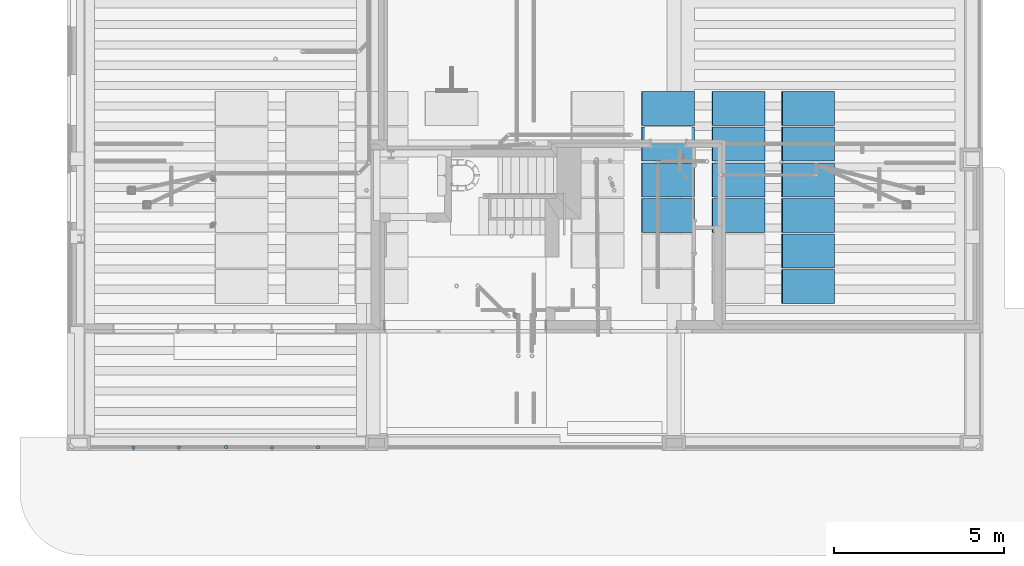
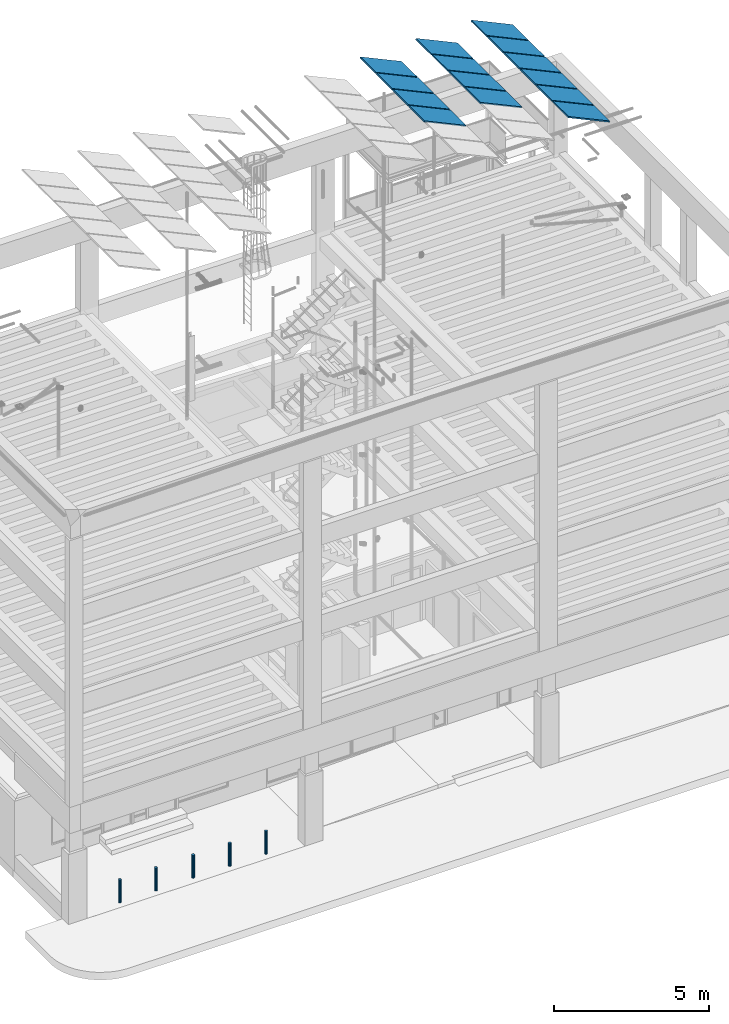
# One storey, part 13 of 108: 19 members.
"""IFC2X3 building model written with IfcOpenShell, lengths in metres."""

from ifc_helpers import new_model, entity, si_unit, converted_unit, derived_unit, money_unit, direction, frame, origin_with_axes, place, context, subcontext, project, spatial, faceted_brep, material, type_object, element, save


model = new_model("IFC2X3")

# Units and contexts
model_context = context("Model", 3, precision=1e-05, world=origin_with_axes(), true_north=direction((0.0, 1.0)))
body_context = subcontext(model_context, "Body", "Model", "MODEL_VIEW", scale=1.0)
ifc_project = project(units=[si_unit("LENGTHUNIT", "METRE"), si_unit("AREAUNIT", "SQUARE_METRE"), si_unit("VOLUMEUNIT", "CUBIC_METRE"), si_unit("ABSORBEDDOSEUNIT", "GRAY"), si_unit("AMOUNTOFSUBSTANCEUNIT", "MOLE"), si_unit("DOSEEQUIVALENTUNIT", "SIEVERT"), si_unit("ELECTRICCAPACITANCEUNIT", "FARAD"), si_unit("ELECTRICCHARGEUNIT", "COULOMB"), si_unit("ELECTRICCONDUCTANCEUNIT", "SIEMENS"), si_unit("ELECTRICCURRENTUNIT", "AMPERE"), si_unit("ELECTRICRESISTANCEUNIT", "OHM"), si_unit("ELECTRICVOLTAGEUNIT", "VOLT"), si_unit("ENERGYUNIT", "JOULE"), si_unit("FORCEUNIT", "NEWTON"), si_unit("FREQUENCYUNIT", "HERTZ"), si_unit("ILLUMINANCEUNIT", "LUX"), si_unit("INDUCTANCEUNIT", "HENRY"), si_unit("LUMINOUSFLUXUNIT", "LUMEN"), si_unit("LUMINOUSINTENSITYUNIT", "CANDELA"), si_unit("MAGNETICFLUXDENSITYUNIT", "TESLA"), si_unit("MAGNETICFLUXUNIT", "WEBER"), si_unit("MASSUNIT", "GRAM"), converted_unit("PLANEANGLEUNIT", "degree", entity("IfcReal", 0.0174532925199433), si_unit("PLANEANGLEUNIT", "RADIAN"), dimensions=[0, 0, 0, 0, 0, 0, 0]), si_unit("POWERUNIT", "WATT"), si_unit("PRESSUREUNIT", "PASCAL"), si_unit("RADIOACTIVITYUNIT", "BECQUEREL"), si_unit("SOLIDANGLEUNIT", "STERADIAN"), si_unit("THERMODYNAMICTEMPERATUREUNIT", "KELVIN"), si_unit("TIMEUNIT", "SECOND"), derived_unit("ACCELERATIONUNIT", [(si_unit("LENGTHUNIT", "METRE"), 1), (si_unit("TIMEUNIT", "SECOND"), -2)]), derived_unit("ANGULARVELOCITYUNIT", [(converted_unit("PLANEANGLEUNIT", "degree", entity("IfcReal", 0.0174532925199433), si_unit("PLANEANGLEUNIT", "RADIAN"), dimensions=[0, 0, 0, 0, 0, 0, 0]), 1), (si_unit("TIMEUNIT", "SECOND"), -1)]), derived_unit("CURVATUREUNIT", [(converted_unit("PLANEANGLEUNIT", "degree", entity("IfcReal", 0.0174532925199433), si_unit("PLANEANGLEUNIT", "RADIAN"), dimensions=[0, 0, 0, 0, 0, 0, 0]), 1), (si_unit("LENGTHUNIT", "METRE"), -1)]), derived_unit("DYNAMICVISCOSITYUNIT", [(si_unit("PRESSUREUNIT", "PASCAL"), 1), (si_unit("TIMEUNIT", "SECOND"), 1)]), derived_unit("HEATFLUXDENSITYUNIT", [(si_unit("POWERUNIT", "WATT"), 1), (si_unit("LENGTHUNIT", "METRE"), -2)]), derived_unit("HEATINGVALUEUNIT", [(si_unit("ENERGYUNIT", "JOULE"), 1), (si_unit("MASSUNIT", "GRAM"), -1)]), derived_unit("INTEGERCOUNTRATEUNIT", [(si_unit("TIMEUNIT", "SECOND"), -1)]), derived_unit("IONCONCENTRATIONUNIT", [(si_unit("MASSUNIT", "GRAM"), 1), (si_unit("VOLUMEUNIT", "CUBIC_METRE"), -1)]), derived_unit("ISOTHERMALMOISTURECAPACITYUNIT", [(si_unit("VOLUMEUNIT", "CUBIC_METRE"), 1), (si_unit("MASSUNIT", "GRAM"), -1)]), derived_unit("KINEMATICVISCOSITYUNIT", [(si_unit("AREAUNIT", "SQUARE_METRE"), 1), (si_unit("TIMEUNIT", "SECOND"), -1)]), derived_unit("LINEARFORCEUNIT", [(si_unit("FORCEUNIT", "NEWTON"), 1), (si_unit("LENGTHUNIT", "METRE"), -1)]), derived_unit("LINEARMOMENTUNIT", [(si_unit("FORCEUNIT", "NEWTON"), 1), (si_unit("LENGTHUNIT", "METRE"), -1)]), derived_unit("LINEARSTIFFNESSUNIT", [(si_unit("FORCEUNIT", "NEWTON"), 1), (si_unit("LENGTHUNIT", "METRE"), -1)]), derived_unit("LINEARVELOCITYUNIT", [(si_unit("LENGTHUNIT", "METRE"), 1), (si_unit("TIMEUNIT", "SECOND"), -1)]), derived_unit("LUMINOUSINTENSITYDISTRIBUTIONUNIT", [(si_unit("LUMINOUSINTENSITYUNIT", "CANDELA"), 1), (si_unit("LUMINOUSFLUXUNIT", "LUMEN"), -1)]), derived_unit("MASSDENSITYUNIT", [(si_unit("MASSUNIT", "GRAM"), 1), (si_unit("VOLUMEUNIT", "CUBIC_METRE"), -1)]), derived_unit("MASSFLOWRATEUNIT", [(si_unit("MASSUNIT", "GRAM"), 1), (si_unit("TIMEUNIT", "SECOND"), -1)]), derived_unit("MASSPERLENGTHUNIT", [(si_unit("MASSUNIT", "GRAM"), 1), (si_unit("LENGTHUNIT", "METRE"), -1)]), derived_unit("MODULUSOFELASTICITYUNIT", [(si_unit("FORCEUNIT", "NEWTON"), 1), (si_unit("AREAUNIT", "SQUARE_METRE"), -1)]), derived_unit("MODULUSOFLINEARSUBGRADEREACTIONUNIT", [(si_unit("FORCEUNIT", "NEWTON"), 1), (si_unit("LENGTHUNIT", "METRE"), -2)]), derived_unit("MODULUSOFROTATIONALSUBGRADEREACTIONUNIT", [(si_unit("FORCEUNIT", "NEWTON"), 1), (si_unit("LENGTHUNIT", "METRE"), 1)]), derived_unit("MODULUSOFSUBGRADEREACTIONUNIT", [(si_unit("FORCEUNIT", "NEWTON"), 1), (si_unit("VOLUMEUNIT", "CUBIC_METRE"), -1)]), derived_unit("MOISTUREDIFFUSIVITYUNIT", [(si_unit("VOLUMEUNIT", "CUBIC_METRE"), 1), (si_unit("TIMEUNIT", "SECOND"), -1)]), derived_unit("MOLECULARWEIGHTUNIT", [(si_unit("MASSUNIT", "GRAM"), 1), (si_unit("AMOUNTOFSUBSTANCEUNIT", "MOLE"), -1)]), derived_unit("PLANARFORCEUNIT", [(si_unit("FORCEUNIT", "NEWTON"), 1), (si_unit("LENGTHUNIT", "METRE"), -2)]), derived_unit("ROTATIONALFREQUENCYUNIT", [(si_unit("TIMEUNIT", "SECOND"), -1)]), derived_unit("ROTATIONALMASSUNIT", [(si_unit("MASSUNIT", "GRAM"), 1), (si_unit("LENGTHUNIT", "METRE"), 2)]), derived_unit("ROTATIONALSTIFFNESSUNIT", [(si_unit("FORCEUNIT", "NEWTON"), 1), (si_unit("LENGTHUNIT", "METRE"), 1), (converted_unit("PLANEANGLEUNIT", "degree", entity("IfcReal", 0.0174532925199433), si_unit("PLANEANGLEUNIT", "RADIAN"), dimensions=[0, 0, 0, 0, 0, 0, 0]), -1)]), derived_unit("SECTIONAREAINTEGRALUNIT", [(si_unit("LENGTHUNIT", "METRE"), 5)]), derived_unit("SECTIONMODULUSUNIT", [(si_unit("LENGTHUNIT", "METRE"), 3)]), derived_unit("SHEARMODULUSUNIT", [(si_unit("FORCEUNIT", "NEWTON"), 1), (si_unit("AREAUNIT", "SQUARE_METRE"), -1)]), derived_unit("SOUNDPOWERUNIT", [(si_unit("ENERGYUNIT", "JOULE"), 1), (si_unit("TIMEUNIT", "SECOND"), -1)]), derived_unit("SPECIFICHEATCAPACITYUNIT", [(si_unit("FORCEUNIT", "NEWTON"), 1), (si_unit("MASSUNIT", "GRAM"), -1), (si_unit("THERMODYNAMICTEMPERATUREUNIT", "KELVIN"), -1)]), derived_unit("TEMPERATUREGRADIENTUNIT", [(si_unit("THERMODYNAMICTEMPERATUREUNIT", "KELVIN"), 1), (si_unit("LENGTHUNIT", "METRE"), -1)]), derived_unit("THERMALADMITTANCEUNIT", [(si_unit("POWERUNIT", "WATT"), 1), (si_unit("AREAUNIT", "SQUARE_METRE"), -1), (si_unit("THERMODYNAMICTEMPERATUREUNIT", "KELVIN"), -1)]), derived_unit("THERMALCONDUCTANCEUNIT", [(si_unit("POWERUNIT", "WATT"), 1), (si_unit("LENGTHUNIT", "METRE"), -1), (si_unit("THERMODYNAMICTEMPERATUREUNIT", "KELVIN"), -1)]), derived_unit("THERMALEXPANSIONCOEFFICIENTUNIT", [(si_unit("THERMODYNAMICTEMPERATUREUNIT", "KELVIN"), -1)]), derived_unit("THERMALRESISTANCEUNIT", [(si_unit("AREAUNIT", "SQUARE_METRE"), 1), (si_unit("POWERUNIT", "WATT"), -1)]), derived_unit("THERMALTRANSMITTANCEUNIT", [(si_unit("POWERUNIT", "WATT"), 1), (si_unit("AREAUNIT", "SQUARE_METRE"), -1), (si_unit("THERMODYNAMICTEMPERATUREUNIT", "KELVIN"), -1)]), derived_unit("TORQUEUNIT", [(si_unit("FORCEUNIT", "NEWTON"), 1), (si_unit("LENGTHUNIT", "METRE"), 1)]), derived_unit("VAPORPERMEABILITYUNIT", [(si_unit("MASSUNIT", "GRAM"), 1), (si_unit("TIMEUNIT", "SECOND"), -1)]), derived_unit("VOLUMETRICFLOWRATEUNIT", [(si_unit("VOLUMEUNIT", "CUBIC_METRE"), 1), (si_unit("TIMEUNIT", "SECOND"), -1)]), derived_unit("WARPINGCONSTANTUNIT", [(si_unit("LENGTHUNIT", "METRE"), 6)]), derived_unit("WARPINGMOMENTUNIT", [(si_unit("FORCEUNIT", "NEWTON"), 1), (si_unit("LENGTHUNIT", "METRE"), 2)]), money_unit("GBP")], contexts=[model_context])

# Site, building, storey
site_placement = place(None, origin_with_axes())
site = spatial("IfcSite", under=ifc_project, at=site_placement, Name="Site", CompositionType="ELEMENT")
building_placement = place(site_placement, origin_with_axes())
building = spatial("IfcBuilding", under=site, at=building_placement, Name="Building01", CompositionType="ELEMENT")
storey_placement = place(building_placement, origin_with_axes())
storey = spatial("IfcBuildingStorey", under=building, at=storey_placement, Name="GF", CompositionType="ELEMENT", Elevation=0.0)

# Members
ifc_material_1 = material(Name="A_BSUK_Steel_Miscellaneous")
member_type_1 = type_object("IfcMemberType", Name="A-FrameElements:A_BSUK_Steel_Miscellaneous", PredefinedType="NOTDEFINED")
placement = place(storey_placement, origin_with_axes())
element("IfcMember", 1, at=placement, inside=storey, type_object=member_type_1, material=ifc_material_1, Name="A-FrameElements--A_BSUK_Steel_Miscellaneous", ObjectType="A-FrameElements:A_BSUK_Steel_Miscellaneous", context=body_context, shape_type="Brep", body=[
    faceted_brep([(2.009894, 0.062308, 0.0), (1.998692, 0.045543, 0.0), (1.981927, 0.03434, 0.0), (1.962151, 0.030407, 0.0), (1.942374, 0.03434, 0.0), (1.925609, 0.045543, 0.0), (1.914407, 0.062308, 0.0), (1.910473, 0.082084, 0.0), (1.914407, 0.10186, 0.0), (1.925609, 0.118626, 0.0), (1.942374, 0.129828, 0.0), (1.962151, 0.133762, 0.0), (1.981927, 0.129828, 0.0), (1.998692, 0.118626, 0.0), (2.009894, 0.10186, 0.0), (2.013828, 0.082084, 0.0), (2.013773, 0.079695, 0.0), (1.910473, 0.082084, 0.9), (1.914407, 0.10186, 0.9), (1.925609, 0.118626, 0.9), (1.942374, 0.129828, 0.9), (1.962151, 0.133762, 0.9), (1.981927, 0.129828, 0.9), (1.998692, 0.118626, 0.9), (2.009894, 0.10186, 0.9), (2.013828, 0.082084, 0.9), (2.013773, 0.079695, 0.9), (2.009894, 0.062308, 0.9), (1.998692, 0.045543, 0.9), (1.981927, 0.03434, 0.9), (1.962151, 0.030407, 0.9), (1.942374, 0.03434, 0.9), (1.925609, 0.045543, 0.9), (1.914407, 0.062308, 0.9)], [[[0, 1, 2, 3, 4, 5, 6, 7, 8, 9, 10, 11, 12, 13, 14, 15, 16]], [[7, 17, 18, 8]], [[8, 18, 19, 9]], [[9, 19, 20, 10]], [[10, 20, 21, 11]], [[11, 21, 22, 12]], [[12, 22, 23, 13]], [[13, 23, 24, 14]], [[14, 24, 25, 15]], [[26, 27, 0, 16]], [[0, 27, 28, 1]], [[1, 28, 29, 2]], [[2, 29, 30, 3]], [[3, 30, 31, 4]], [[4, 31, 32, 5]], [[5, 32, 33, 6]], [[6, 33, 17, 7]], [[16, 15, 25, 26]], [[25, 24, 23, 22, 21, 20, 19, 18, 17, 33, 32, 31, 30, 29, 28, 27, 26]]]),
])
element("IfcMember", 2, at=placement, inside=storey, type_object=member_type_1, material=ifc_material_1, Name="A-FrameElements--A_BSUK_Steel_Miscellaneous", ObjectType="A-FrameElements:A_BSUK_Steel_Miscellaneous", context=body_context, shape_type="Brep", body=[
    faceted_brep([(3.346752, 0.062308, 0.0), (3.33555, 0.045543, 0.0), (3.318784, 0.03434, 0.0), (3.299008, 0.030407, 0.0), (3.279232, 0.03434, 0.0), (3.262466, 0.045543, 0.0), (3.251264, 0.062308, 0.0), (3.24733, 0.082084, 0.0), (3.251264, 0.10186, 0.0), (3.262466, 0.118626, 0.0), (3.279232, 0.129828, 0.0), (3.299008, 0.133762, 0.0), (3.318784, 0.129828, 0.0), (3.33555, 0.118626, 0.0), (3.346752, 0.10186, 0.0), (3.350686, 0.082084, 0.0), (3.35063, 0.079695, 0.0), (3.24733, 0.082084, 0.9), (3.251264, 0.10186, 0.9), (3.262466, 0.118626, 0.9), (3.279232, 0.129828, 0.9), (3.299008, 0.133762, 0.9), (3.318784, 0.129828, 0.9), (3.33555, 0.118626, 0.9), (3.346752, 0.10186, 0.9), (3.350686, 0.082084, 0.9), (3.35063, 0.079695, 0.9), (3.346752, 0.062308, 0.9), (3.33555, 0.045543, 0.9), (3.318784, 0.03434, 0.9), (3.299008, 0.030407, 0.9), (3.279232, 0.03434, 0.9), (3.262466, 0.045543, 0.9), (3.251264, 0.062308, 0.9)], [[[0, 1, 2, 3, 4, 5, 6, 7, 8, 9, 10, 11, 12, 13, 14, 15, 16]], [[7, 17, 18, 8]], [[8, 18, 19, 9]], [[9, 19, 20, 10]], [[10, 20, 21, 11]], [[11, 21, 22, 12]], [[12, 22, 23, 13]], [[13, 23, 24, 14]], [[14, 24, 25, 15]], [[26, 27, 0, 16]], [[0, 27, 28, 1]], [[1, 28, 29, 2]], [[2, 29, 30, 3]], [[3, 30, 31, 4]], [[4, 31, 32, 5]], [[5, 32, 33, 6]], [[6, 33, 17, 7]], [[16, 15, 25, 26]], [[25, 24, 23, 22, 21, 20, 19, 18, 17, 33, 32, 31, 30, 29, 28, 27, 26]]]),
])
element("IfcMember", 3, at=placement, inside=storey, type_object=member_type_1, material=ifc_material_1, Name="A-FrameElements--A_BSUK_Steel_Miscellaneous", ObjectType="A-FrameElements:A_BSUK_Steel_Miscellaneous", context=body_context, shape_type="Brep", body=[
    faceted_brep([(4.742823, 0.08334, 0.0), (4.731621, 0.066575, 0.0), (4.714856, 0.055373, 0.0), (4.695079, 0.051439, 0.0), (4.675303, 0.055373, 0.0), (4.658538, 0.066575, 0.0), (4.647335, 0.08334, 0.0), (4.643402, 0.103117, 0.0), (4.647335, 0.122893, 0.0), (4.658538, 0.139658, 0.0), (4.675303, 0.15086, 0.0), (4.695079, 0.154794, 0.0), (4.714856, 0.15086, 0.0), (4.731621, 0.139658, 0.0), (4.742823, 0.122893, 0.0), (4.746757, 0.103117, 0.0), (4.746702, 0.100727, 0.0), (4.643402, 0.103117, 0.9), (4.647335, 0.122893, 0.9), (4.658538, 0.139658, 0.9), (4.675303, 0.15086, 0.9), (4.695079, 0.154794, 0.9), (4.714856, 0.15086, 0.9), (4.731621, 0.139658, 0.9), (4.742823, 0.122893, 0.9), (4.746757, 0.103117, 0.9), (4.746702, 0.100727, 0.9), (4.742823, 0.08334, 0.9), (4.731621, 0.066575, 0.9), (4.714856, 0.055373, 0.9), (4.695079, 0.051439, 0.9), (4.675303, 0.055373, 0.9), (4.658538, 0.066575, 0.9), (4.647335, 0.08334, 0.9)], [[[0, 1, 2, 3, 4, 5, 6, 7, 8, 9, 10, 11, 12, 13, 14, 15, 16]], [[7, 17, 18, 8]], [[8, 18, 19, 9]], [[9, 19, 20, 10]], [[10, 20, 21, 11]], [[11, 21, 22, 12]], [[12, 22, 23, 13]], [[13, 23, 24, 14]], [[14, 24, 25, 15]], [[26, 27, 0, 16]], [[0, 27, 28, 1]], [[1, 28, 29, 2]], [[2, 29, 30, 3]], [[3, 30, 31, 4]], [[4, 31, 32, 5]], [[5, 32, 33, 6]], [[6, 33, 17, 7]], [[16, 15, 25, 26]], [[25, 24, 23, 22, 21, 20, 19, 18, 17, 33, 32, 31, 30, 29, 28, 27, 26]]]),
])
element("IfcMember", 4, at=placement, inside=storey, type_object=member_type_1, material=ifc_material_1, Name="A-FrameElements--A_BSUK_Steel_Miscellaneous", ObjectType="A-FrameElements:A_BSUK_Steel_Miscellaneous", context=body_context, shape_type="Brep", body=[
    faceted_brep([(6.091739, 0.062814, 0.0), (6.080537, 0.046049, 0.0), (6.063771, 0.034847, 0.0), (6.043995, 0.030913, 0.0), (6.024219, 0.034847, 0.0), (6.007453, 0.046049, 0.0), (5.996251, 0.062814, 0.0), (5.992317, 0.082591, 0.0), (5.996251, 0.102367, 0.0), (6.007453, 0.119132, 0.0), (6.024219, 0.130334, 0.0), (6.043995, 0.134268, 0.0), (6.063771, 0.130334, 0.0), (6.080537, 0.119132, 0.0), (6.091739, 0.102367, 0.0), (6.095673, 0.082591, 0.0), (6.095617, 0.080201, 0.0), (5.992317, 0.082591, 0.9), (5.996251, 0.102367, 0.9), (6.007453, 0.119132, 0.9), (6.024219, 0.130334, 0.9), (6.043995, 0.134268, 0.9), (6.063771, 0.130334, 0.9), (6.080537, 0.119132, 0.9), (6.091739, 0.102367, 0.9), (6.095673, 0.082591, 0.9), (6.095617, 0.080201, 0.9), (6.091739, 0.062814, 0.9), (6.080537, 0.046049, 0.9), (6.063771, 0.034847, 0.9), (6.043995, 0.030913, 0.9), (6.024219, 0.034847, 0.9), (6.007453, 0.046049, 0.9), (5.996251, 0.062814, 0.9)], [[[0, 1, 2, 3, 4, 5, 6, 7, 8, 9, 10, 11, 12, 13, 14, 15, 16]], [[7, 17, 18, 8]], [[8, 18, 19, 9]], [[9, 19, 20, 10]], [[10, 20, 21, 11]], [[11, 21, 22, 12]], [[12, 22, 23, 13]], [[13, 23, 24, 14]], [[14, 24, 25, 15]], [[26, 27, 0, 16]], [[0, 27, 28, 1]], [[1, 28, 29, 2]], [[2, 29, 30, 3]], [[3, 30, 31, 4]], [[4, 31, 32, 5]], [[5, 32, 33, 6]], [[6, 33, 17, 7]], [[16, 15, 25, 26]], [[25, 24, 23, 22, 21, 20, 19, 18, 17, 33, 32, 31, 30, 29, 28, 27, 26]]]),
])
element("IfcMember", 5, at=placement, inside=storey, type_object=member_type_1, material=ifc_material_1, Name="A-FrameElements--A_BSUK_Steel_Miscellaneous", ObjectType="A-FrameElements:A_BSUK_Steel_Miscellaneous", context=body_context, shape_type="Brep", body=[
    faceted_brep([(7.444789, 0.072802, 0.0), (7.433586, 0.056036, 0.0), (7.416821, 0.044834, 0.0), (7.397045, 0.0409, 0.0), (7.377269, 0.044834, 0.0), (7.360503, 0.056036, 0.0), (7.349301, 0.072802, 0.0), (7.345367, 0.092578, 0.0), (7.349301, 0.112354, 0.0), (7.360503, 0.129119, 0.0), (7.377269, 0.140322, 0.0), (7.397045, 0.144256, 0.0), (7.416821, 0.140322, 0.0), (7.433586, 0.129119, 0.0), (7.444789, 0.112354, 0.0), (7.448723, 0.092578, 0.0), (7.448667, 0.090189, 0.0), (7.345367, 0.092578, 0.9), (7.349301, 0.112354, 0.9), (7.360503, 0.129119, 0.9), (7.377269, 0.140322, 0.9), (7.397045, 0.144256, 0.9), (7.416821, 0.140322, 0.9), (7.433586, 0.129119, 0.9), (7.444789, 0.112354, 0.9), (7.448723, 0.092578, 0.9), (7.448667, 0.090189, 0.9), (7.444789, 0.072802, 0.9), (7.433586, 0.056036, 0.9), (7.416821, 0.044834, 0.9), (7.397045, 0.0409, 0.9), (7.377269, 0.044834, 0.9), (7.360503, 0.056036, 0.9), (7.349301, 0.072802, 0.9)], [[[0, 1, 2, 3, 4, 5, 6, 7, 8, 9, 10, 11, 12, 13, 14, 15, 16]], [[7, 17, 18, 8]], [[8, 18, 19, 9]], [[9, 19, 20, 10]], [[10, 20, 21, 11]], [[11, 21, 22, 12]], [[12, 22, 23, 13]], [[13, 23, 24, 14]], [[14, 24, 25, 15]], [[26, 27, 0, 16]], [[0, 27, 28, 1]], [[1, 28, 29, 2]], [[2, 29, 30, 3]], [[3, 30, 31, 4]], [[4, 31, 32, 5]], [[5, 32, 33, 6]], [[6, 33, 17, 7]], [[16, 15, 25, 26]], [[25, 24, 23, 22, 21, 20, 19, 18, 17, 33, 32, 31, 30, 29, 28, 27, 26]]]),
])
ifc_material_2 = material(Name="A_BSUK_BasePlates")
member_type_2 = type_object("IfcMemberType", Name="A-Baseplate", PredefinedType="PLATE")
for number, where, z_axis, x_axis, name in (
    (6, (21.075265, 9.5735, 21.590851), (-0.42261826, 0.0, -0.90630779), (-0.90630779, 0.0, 0.42261826), "Solar panel"),
    (7, (19.022082, 9.5735, 21.590851), (-0.42261826, 0.0, -0.90630779), (-0.90630779, 0.0, 0.42261826), "Solar panel"),
    (8, (16.947768, 9.5735, 21.590851), (-0.42261826, 0.0, -0.90630779), (-0.90630779, 0.0, 0.42261826), "Solar panel"),
    (9, (21.075265, 8.524048, 21.590851), (-0.42261826, 0.0, -0.90630779), (-0.90630779, 0.0, 0.42261826), "Solar panel"),
    (10, (19.022082, 8.524048, 21.590851), (-0.42261826, 0.0, -0.90630779), (-0.90630779, 0.0, 0.42261826), "Solar panel"),
    (11, (16.947768, 8.524048, 21.590851), (-0.42261826, 0.0, -0.90630779), (-0.90630779, 0.0, 0.42261826), "Solar panel"),
    (12, (21.075265, 7.474596, 21.590851), (-0.42261826, 0.0, -0.90630779), (-0.90630779, 0.0, 0.42261826), "Solar panel"),
    (13, (19.022082, 7.474596, 21.590851), (-0.42261826, 0.0, -0.90630779), (-0.90630779, 0.0, 0.42261826), "Solar panel"),
    (14, (16.947768, 7.474596, 21.590851), (-0.42261826, 0.0, -0.90630779), (-0.90630779, 0.0, 0.42261826), "Solar panel"),
    (15, (21.075265, 6.425145, 21.590851), (-0.42261826, 0.0, -0.90630779), (-0.90630779, 0.0, 0.42261826), "Solar panel"),
    (16, (19.022082, 6.425145, 21.590851), (-0.42261826, 0.0, -0.90630779), (-0.90630779, 0.0, 0.42261826), "Solar panel"),
    (17, (16.947768, 6.425145, 21.590851), (-0.42261826, 0.0, -0.90630779), (-0.90630779, 0.0, 0.42261826), "Solar panel"),
    (18, (21.075265, 5.375693, 21.590851), (-0.42261826, 0.0, -0.90630779), (-0.90630779, 0.0, 0.42261826), "Solar panel"),
    (19, (21.075265, 4.326241, 21.590851), (-0.42261826, 0.0, -0.90630779), (-0.90630779, 0.0, 0.42261826), "Solar panel"),
):
    element("IfcMember", number, at=place(storey_placement, frame(where, z_axis=z_axis, x_axis=x_axis)), inside=storey, type_object=member_type_2, material=ifc_material_2, Name=name, ObjectType="A-Baseplate", context=body_context, shape_type="Brep", body=[
        faceted_brep([(0.0, 0.0, 0.050001), (0.0, 0.0, 1e-06), (0.0, 1.0, 1e-06), (0.0, 1.0, 0.050001), (-1.7, 1.0, 0.050001), (-1.7, 1.0, 1e-06), (-1.7, 0.0, 1e-06), (-1.7, 0.0, 0.050001)], [[[0, 1, 2, 3]], [[4, 5, 6, 7]], [[3, 2, 5, 4]], [[3, 4, 7, 0]], [[7, 6, 1, 0]], [[1, 6, 5, 2]]]),
    ])

save(model, "model.ifc")
